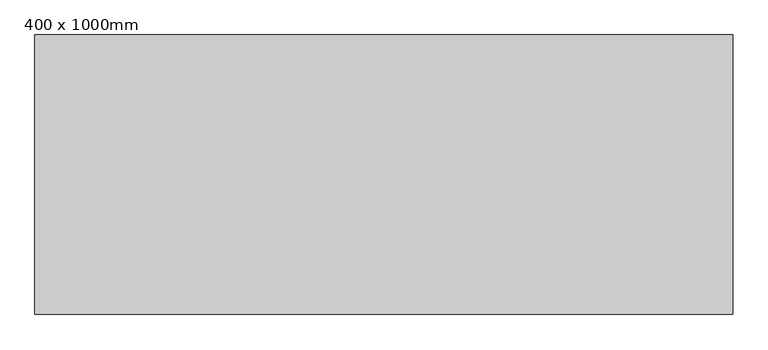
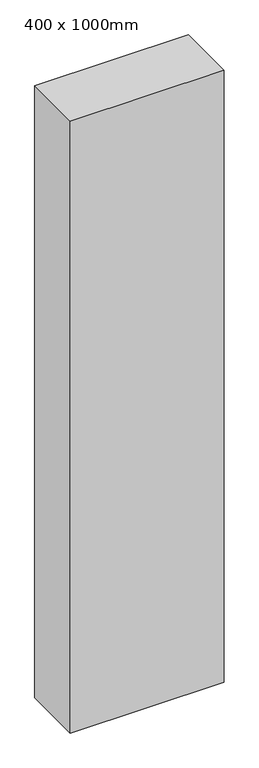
"""IFC4 building model written with IfcOpenShell, lengths in millimetres: column geometry, 矩形柱 : 400 x 1000mm."""

from ifc_helpers import new_model, si_unit, frame, origin, place, context, project, spatial, polyline, outline, extrude, source, transform, mapped, element, save


def column_400_x_1000mm_d9039fd1(model_context):
    return source(origin(), model_context, "Body", "SweptSolid", [
        extrude(outline(polyline([(500.0, 200.0), (500.0, -200.0), (-500.0, -200.0), (-500.0, 200.0), (500.0, 200.0)])), frame((0.0, 0.0, 4200.0), z_axis=(0.0, 0.0, 1.0), x_axis=(1.0, 0.0, 0.0)), (0.0, 0.0, 1.0), 4200.0),
    ])


if __name__ == "__main__":
    model = new_model("IFC4")
    model_context = context("Model", 3, world=origin())
    ifc_project = project(units=[si_unit("LENGTHUNIT", "METRE", prefix="MILLI")], contexts=[model_context])
    site = spatial("IfcSite", under=ifc_project)
    building = spatial("IfcBuilding", under=site)
    placement = place(None, origin())
    column_400_x_1000mm_shape = column_400_x_1000mm_d9039fd1(model_context)
    element("IfcColumn", 1, ObjectType="矩形柱 : 400 x 1000mm", at=placement, inside=building, context=model_context, shape_type="MappedRepresentation", body=[
        mapped(column_400_x_1000mm_shape, transform((0.0, 0.0, 0.0), x_axis=(1.0, 0.0, 0.0), y_axis=(0.0, 1.0, 0.0), z_axis=(0.0, 0.0, 1.0))),
    ])
    save(model, "model.ifc")
